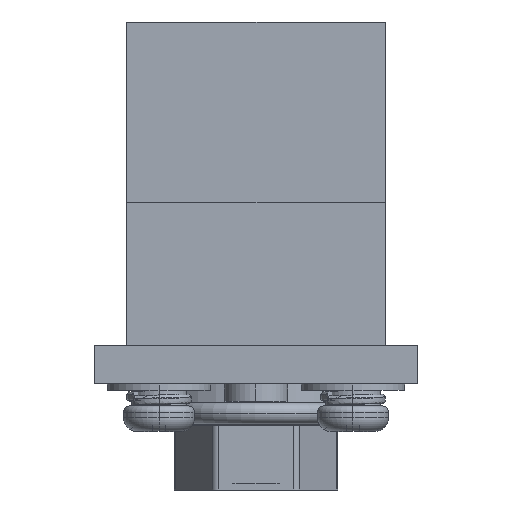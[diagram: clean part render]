
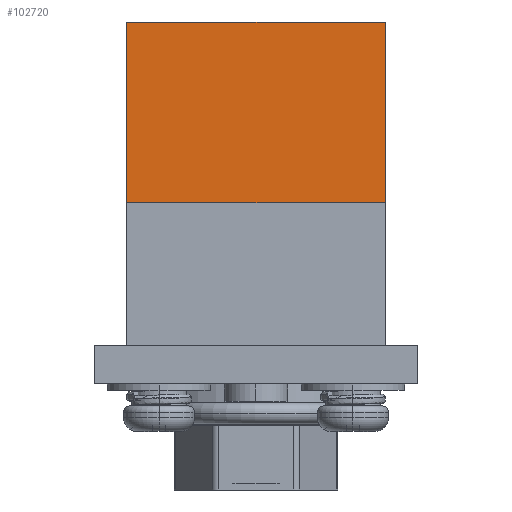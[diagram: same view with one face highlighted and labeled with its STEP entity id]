
A CAD part, left-side view. The second image highlights one B-rep face of the part: STEP entity #102720.
In plain terms, the highlighted planar face has unit normal (-1, 0, 0).
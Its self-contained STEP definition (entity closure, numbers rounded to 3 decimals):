
#100500=CARTESIAN_POINT('',(-27.488,66.46,28.));
#100510=VERTEX_POINT('',#100500);
#100560=CARTESIAN_POINT('',(-27.488,66.46,14.));
#100570=DIRECTION('',(0.,0.,1.));
#100580=VECTOR('',#100570,1.);
#100590=LINE('',#100560,#100580);
#100600=CARTESIAN_POINT('',(-27.488,66.46,14.));
#100610=VERTEX_POINT('',#100600);
#100620=EDGE_CURVE('',#100610,#100510,#100590,.T.);
#101320=CARTESIAN_POINT('',(-27.488,46.46,14.));
#101330=VERTEX_POINT('',#101320);
#101360=CARTESIAN_POINT('',(-27.488,46.46,14.));
#101370=DIRECTION('',(0.,0.,1.));
#101380=VECTOR('',#101370,1.);
#101390=LINE('',#101360,#101380);
#101400=CARTESIAN_POINT('',(-27.488,46.46,28.));
#101410=VERTEX_POINT('',#101400);
#101420=EDGE_CURVE('',#101330,#101410,#101390,.T.);
#102300=CARTESIAN_POINT('',(-27.488,66.46,14.));
#102310=DIRECTION('',(0.,-1.,0.));
#102320=VECTOR('',#102310,1.);
#102330=LINE('',#102300,#102320);
#102340=EDGE_CURVE('',#100610,#101330,#102330,.T.);
#102560=CARTESIAN_POINT('',(-27.488,66.46,28.));
#102570=DIRECTION('',(1.,0.,-0.));
#102580=DIRECTION('',(0.,0.,1.));
#102590=AXIS2_PLACEMENT_3D('',#102560,#102570,#102580);
#102600=PLANE('',#102590);
#102610=ORIENTED_EDGE('',*,*,#100620,.F.);
#102620=CARTESIAN_POINT('',(-27.488,66.46,28.));
#102630=DIRECTION('',(0.,-1.,0.));
#102640=VECTOR('',#102630,1.);
#102650=LINE('',#102620,#102640);
#102660=EDGE_CURVE('',#100510,#101410,#102650,.T.);
#102670=ORIENTED_EDGE('',*,*,#102660,.F.);
#102680=ORIENTED_EDGE('',*,*,#101420,.T.);
#102690=ORIENTED_EDGE('',*,*,#102340,.T.);
#102700=EDGE_LOOP('',(#102690,#102680,#102670,#102610));
#102710=FACE_OUTER_BOUND('',#102700,.T.);
#102720=ADVANCED_FACE('',(#102710),#102600,.F.);
